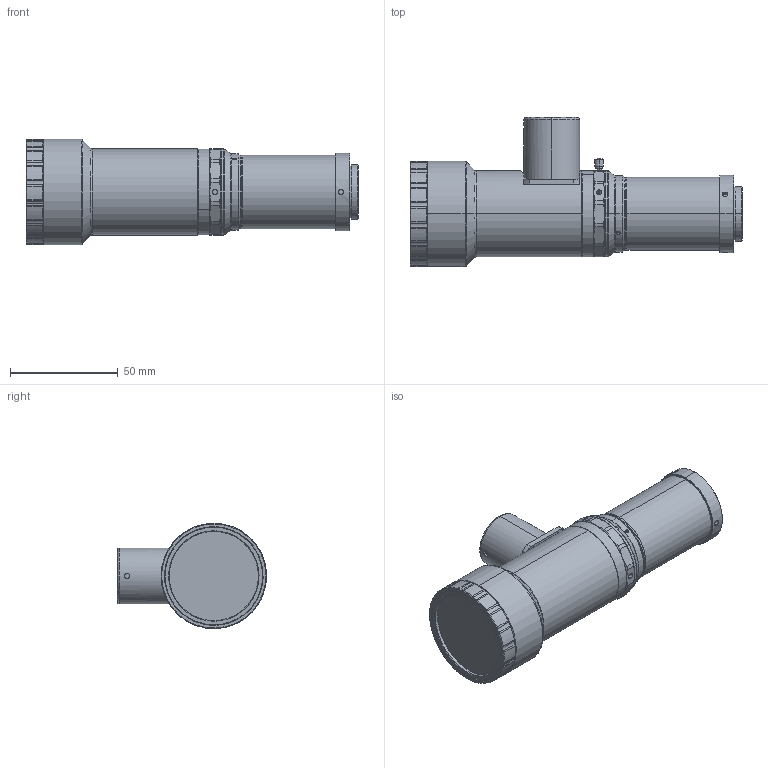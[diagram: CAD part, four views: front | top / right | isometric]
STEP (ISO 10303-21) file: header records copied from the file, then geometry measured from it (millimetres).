
FILE_DESCRIPTION (( 'STEP AP203' ), '1' );
FILE_NAME ('DTCA121-13.3CL.STEP', '2023-12-28T07:10:14', ( '' ), ( '' ), 'SwSTEP 2.0', 'SolidWorks 2017', '' );
FILE_SCHEMA (( 'CONFIG_CONTROL_DESIGN' ));
Length unit declared in the file: millimetre
Products named in the file (1): DTCA121-13.3CL
Bounding box: 154.4 x 69.3 x 49 mm (x, y, z)
Volume: 191700.6 mm3; surface area: 32511.4 mm2
Topology: 1 solids, 6 shells, 500 faces, 1262 edges, 779 vertices
Faces by surface type: cylinder 220, cone 155, plane 109, torus 14, sphere 2
Entity records: 16639 total; most frequent: CARTESIAN_POINT 4821, ORIENTED_EDGE 2508, DIRECTION 2426, EDGE_CURVE 1254, AXIS2_PLACEMENT_3D 1005, VERTEX_POINT 779, EDGE_LOOP 545, CIRCLE 504
